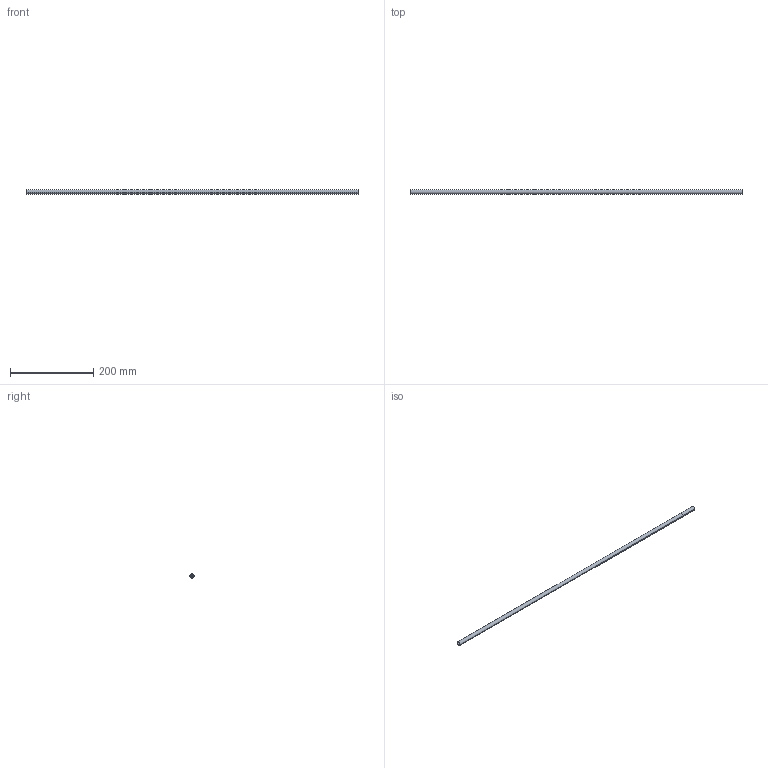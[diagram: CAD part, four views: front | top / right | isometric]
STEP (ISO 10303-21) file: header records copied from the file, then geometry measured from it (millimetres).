
FILE_DESCRIPTION( ( '' ), '1' );
FILE_NAME( '//partserver001.servicenet/client_exchange/iodir/jobs/output/wkb10343593_no1/STEP/te_106______800__2_14b.stp', '2008-04-24T07:33:43', ( '' ), ( '' ), ' ', ' ', ' ' );
FILE_SCHEMA( ( 'automotive_design' ) );
Length unit declared in the file: millimetre
Products named in the file (1): 1
Bounding box: 800 x 10 x 10 mm (x, y, z)
Volume: 38755.9 mm3; surface area: 40790.4 mm2
Topology: 1 solids, 1 shells, 9 faces, 18 edges, 12 vertices
Faces by surface type: cylinder 6, plane 3
Entity records: 494 total; most frequent: DIRECTION 50, STYLED_ITEM 40, PRESENTATION_STYLE_ASSIGNMENT 40, CARTESIAN_POINT 40, COLOUR_RGB 40, ORIENTED_EDGE 36, AXIS2_PLACEMENT_3D 22, EDGE_CURVE 18
